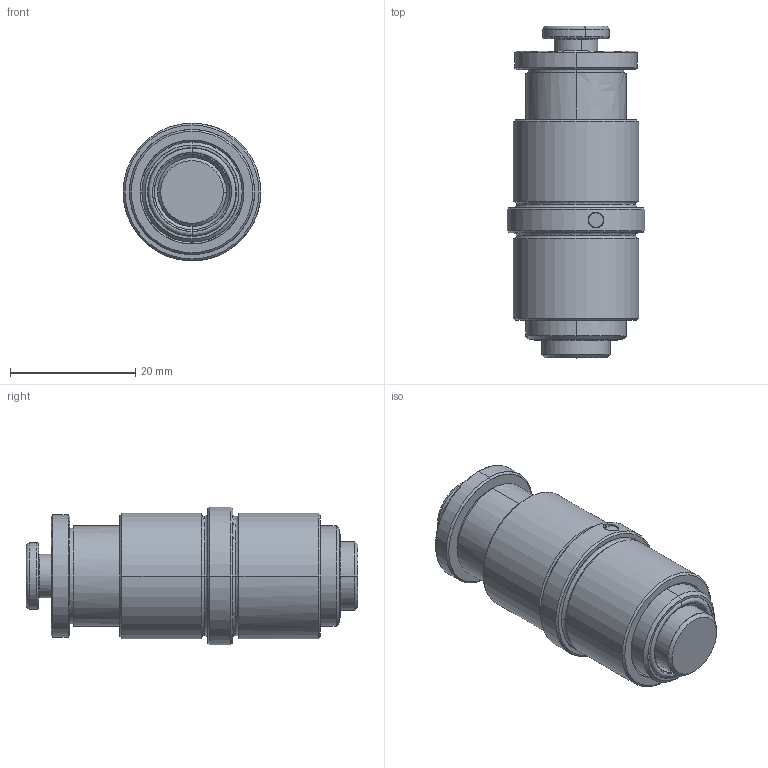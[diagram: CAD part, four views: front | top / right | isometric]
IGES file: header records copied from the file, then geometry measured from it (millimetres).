
Start section: START RECORD GO HERE.
Global section: file name: ae031620.igs; native system: DASSAULT SYSTEMES CATIA V5 R20 - www.3ds.com; preprocessor: CATIA Version 5 Release 20 ; author: Utente; organization: NB04-ASUS; date: 20201103.203310; units: millimetre
Bounding box: 22 x 53 x 22 mm (x, y, z)
Surface area: 12702.4 mm2 (no closed solid volume)
Topology: 0 solids, 0 shells, 509 faces, 2588 edges, 2560 vertices
Faces by surface type: revolution 310, plane 135, bspline 64
